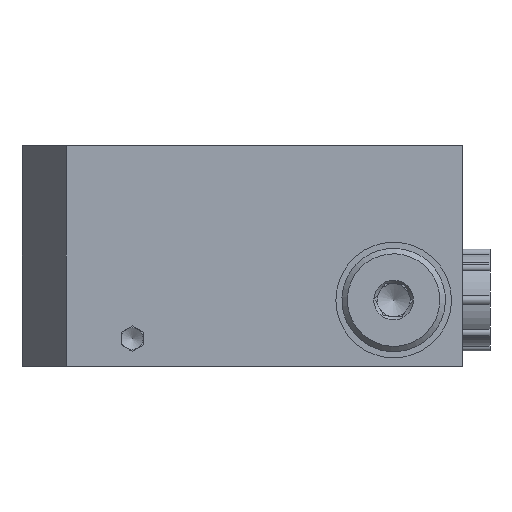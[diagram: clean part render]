
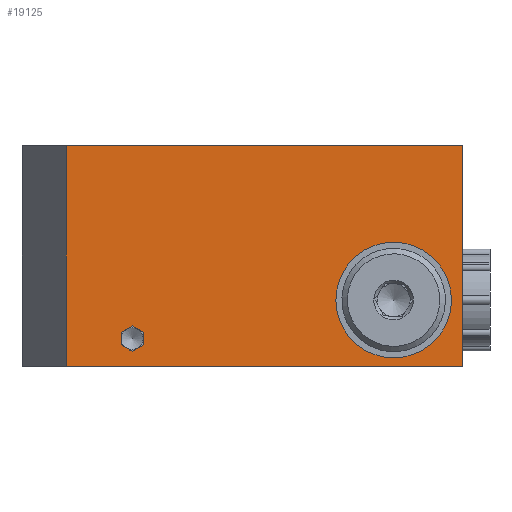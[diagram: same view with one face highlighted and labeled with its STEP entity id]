
A CAD part, left-side view. The second image highlights one B-rep face of the part: STEP entity #19125.
In plain terms, the highlighted planar face has unit normal (-1, 0, 0).
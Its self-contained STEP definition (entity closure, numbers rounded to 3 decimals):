
#6756=CARTESIAN_POINT('',(-197.5,18.,6.155));
#6757=VERTEX_POINT('',#6756);
#6758=CARTESIAN_POINT('',(-197.5,18.,3.845));
#6759=VERTEX_POINT('',#6758);
#6760=CARTESIAN_POINT('',(-197.5,18.,6.155));
#6761=DIRECTION('',(0.0,0.0,-1.0));
#6762=VECTOR('',#6761,2.309);
#6763=LINE('',#6760,#6762);
#6764=EDGE_CURVE('',#6757,#6759,#6763,.T.);
#6804=CARTESIAN_POINT('',(-197.5,20.,7.309));
#6805=VERTEX_POINT('',#6804);
#6806=CARTESIAN_POINT('',(-197.5,20.,7.309));
#6807=DIRECTION('',(0.0,-0.866,-0.5));
#6808=VECTOR('',#6807,2.309);
#6809=LINE('',#6806,#6808);
#6810=EDGE_CURVE('',#6805,#6757,#6809,.T.);
#6999=CARTESIAN_POINT('',(-197.5,22.,3.845));
#7000=VERTEX_POINT('',#6999);
#7001=CARTESIAN_POINT('',(-197.5,22.,6.155));
#7002=VERTEX_POINT('',#7001);
#7003=CARTESIAN_POINT('',(-197.5,22.,3.845));
#7004=DIRECTION('',(0.0,0.0,1.0));
#7005=VECTOR('',#7004,2.309);
#7006=LINE('',#7003,#7005);
#7007=EDGE_CURVE('',#7000,#7002,#7006,.T.);
#7031=CARTESIAN_POINT('',(-197.5,20.,2.691));
#7032=VERTEX_POINT('',#7031);
#7033=CARTESIAN_POINT('',(-197.5,20.,2.691));
#7034=DIRECTION('',(0.0,0.866,0.5));
#7035=VECTOR('',#7034,2.309);
#7036=LINE('',#7033,#7035);
#7037=EDGE_CURVE('',#7032,#7000,#7036,.T.);
#7056=CARTESIAN_POINT('',(-197.5,18.,3.845));
#7057=DIRECTION('',(0.0,0.866,-0.5));
#7058=VECTOR('',#7057,2.309);
#7059=LINE('',#7056,#7058);
#7060=EDGE_CURVE('',#6759,#7032,#7059,.T.);
#7074=CARTESIAN_POINT('',(-197.5,22.,6.155));
#7075=DIRECTION('',(0.0,-0.866,0.5));
#7076=VECTOR('',#7075,2.309);
#7077=LINE('',#7074,#7076);
#7078=EDGE_CURVE('',#7002,#6805,#7077,.T.);
#15961=CARTESIAN_POINT('',(-197.5,-40.,0.0));
#15962=VERTEX_POINT('',#15961);
#15969=CARTESIAN_POINT('',(-197.5,31.962,0.0));
#15970=VERTEX_POINT('',#15969);
#15971=CARTESIAN_POINT('',(-197.5,-40.,0.0));
#15972=DIRECTION('',(0.0,1.0,0.0));
#15973=VECTOR('',#15972,71.962);
#15974=LINE('',#15971,#15973);
#15975=EDGE_CURVE('',#15962,#15970,#15974,.T.);
#16091=CARTESIAN_POINT('',(-197.5,31.962,40.0));
#16092=VERTEX_POINT('',#16091);
#16101=CARTESIAN_POINT('',(-197.5,31.962,0.0));
#16102=DIRECTION('',(0.0,0.0,1.0));
#16103=VECTOR('',#16102,40.0);
#16104=LINE('',#16101,#16103);
#16105=EDGE_CURVE('',#15970,#16092,#16104,.T.);
#17091=CARTESIAN_POINT('',(-197.5,-27.5,22.5));
#17092=VERTEX_POINT('',#17091);
#17093=CARTESIAN_POINT('',(-197.5,-27.5,12.));
#17094=DIRECTION('',(1.0,0.0,0.0));
#17095=DIRECTION('',(0.0,0.0,1.0));
#17096=AXIS2_PLACEMENT_3D('',#17093,#17094,#17095);
#17097=CIRCLE('',#17096,10.5);
#17098=EDGE_CURVE('',#17092,#17092,#17097,.T.);
#19076=CARTESIAN_POINT('',(-197.5,-40.,40.0));
#19077=VERTEX_POINT('',#19076);
#19084=CARTESIAN_POINT('',(-197.5,-40.,0.0));
#19085=DIRECTION('',(0.0,0.0,1.0));
#19086=VECTOR('',#19085,40.0);
#19087=LINE('',#19084,#19086);
#19088=EDGE_CURVE('',#15962,#19077,#19087,.T.);
#19098=CARTESIAN_POINT('',(-197.5,-40.,0.0));
#19099=DIRECTION('',(-1.0,0.0,0.0));
#19100=DIRECTION('',(0.0,0.0,1.0));
#19101=AXIS2_PLACEMENT_3D('',#19098,#19099,#19100);
#19102=PLANE('',#19101);
#19103=ORIENTED_EDGE('',*,*,#16105,.F.);
#19104=ORIENTED_EDGE('',*,*,#15975,.F.);
#19105=ORIENTED_EDGE('',*,*,#19088,.T.);
#19106=CARTESIAN_POINT('',(-197.5,-40.,40.0));
#19107=DIRECTION('',(0.0,1.0,0.0));
#19108=VECTOR('',#19107,71.962);
#19109=LINE('',#19106,#19108);
#19110=EDGE_CURVE('',#19077,#16092,#19109,.T.);
#19111=ORIENTED_EDGE('',*,*,#19110,.T.);
#19112=EDGE_LOOP('',(#19103,#19104,#19105,#19111));
#19113=FACE_OUTER_BOUND('',#19112,.T.);
#19114=ORIENTED_EDGE('',*,*,#6810,.T.);
#19115=ORIENTED_EDGE('',*,*,#6764,.T.);
#19116=ORIENTED_EDGE('',*,*,#7060,.T.);
#19117=ORIENTED_EDGE('',*,*,#7037,.T.);
#19118=ORIENTED_EDGE('',*,*,#7007,.T.);
#19119=ORIENTED_EDGE('',*,*,#7078,.T.);
#19120=EDGE_LOOP('',(#19114,#19115,#19116,#19117,#19118,#19119));
#19121=FACE_BOUND('',#19120,.T.);
#19122=ORIENTED_EDGE('',*,*,#17098,.T.);
#19123=EDGE_LOOP('',(#19122));
#19124=FACE_BOUND('',#19123,.T.);
#19125=ADVANCED_FACE('',(#19113,#19121,#19124),#19102,.T.);
